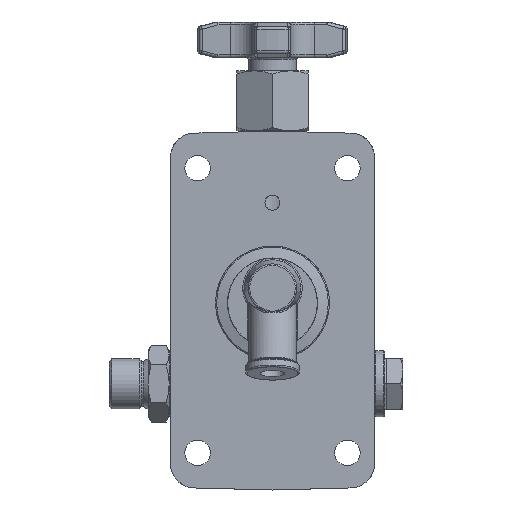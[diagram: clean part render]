
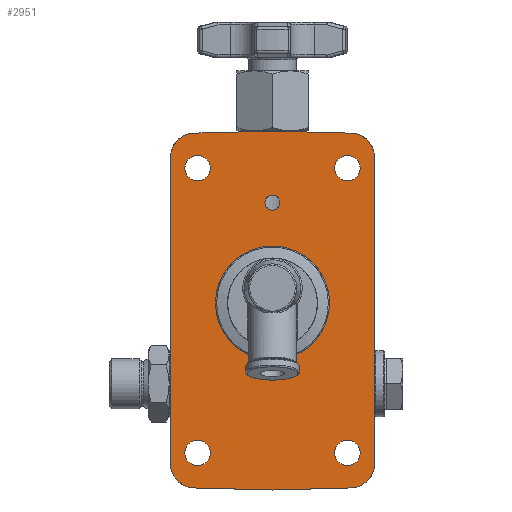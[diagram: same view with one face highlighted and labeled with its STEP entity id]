
A CAD part, front view. The second image highlights one B-rep face of the part: STEP entity #2951.
In plain terms, the highlighted planar face has unit normal (0, -1, 0).
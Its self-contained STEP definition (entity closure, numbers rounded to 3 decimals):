
#2951 = ADVANCED_FACE( 'NONE', ( #7129, #7130, #7131, #7132, #7133, #7134, #7135 ), #7136, .F. );
#7129 = FACE_OUTER_BOUND( '', #17617, .T. );
#7130 = FACE_BOUND( '', #17618, .T. );
#7131 = FACE_BOUND( '', #17619, .T. );
#7132 = FACE_BOUND( '', #17620, .T. );
#7133 = FACE_BOUND( '', #17621, .T. );
#7134 = FACE_BOUND( '', #17622, .T. );
#7135 = FACE_BOUND( '', #17623, .T. );
#7136 = PLANE( '', #17624 );
#17617 = EDGE_LOOP( '', ( #35708, #35709, #35710, #35711, #35712, #35713, #35714, #35715, #35716, #35717 ) );
#17618 = EDGE_LOOP( '', ( #35718 ) );
#17619 = EDGE_LOOP( '', ( #35719 ) );
#17620 = EDGE_LOOP( '', ( #35720 ) );
#17621 = EDGE_LOOP( '', ( #35721 ) );
#17622 = EDGE_LOOP( '', ( #35722 ) );
#17623 = EDGE_LOOP( '', ( #35723 ) );
#17624 = AXIS2_PLACEMENT_3D( '', #35724, #35725, #35726 );
#35708 = ORIENTED_EDGE( '', *, *, #46875, .T. );
#35709 = ORIENTED_EDGE( '', *, *, #45190, .T. );
#35710 = ORIENTED_EDGE( '', *, *, #46006, .T. );
#35711 = ORIENTED_EDGE( '', *, *, #46876, .T. );
#35712 = ORIENTED_EDGE( '', *, *, #46877, .T. );
#35713 = ORIENTED_EDGE( '', *, *, #46878, .T. );
#35714 = ORIENTED_EDGE( '', *, *, #46879, .T. );
#35715 = ORIENTED_EDGE( '', *, *, #46880, .T. );
#35716 = ORIENTED_EDGE( '', *, *, #44805, .T. );
#35717 = ORIENTED_EDGE( '', *, *, #46881, .T. );
#35718 = ORIENTED_EDGE( '', *, *, #46365, .F. );
#35719 = ORIENTED_EDGE( '', *, *, #46882, .F. );
#35720 = ORIENTED_EDGE( '', *, *, #46883, .F. );
#35721 = ORIENTED_EDGE( '', *, *, #46884, .F. );
#35722 = ORIENTED_EDGE( '', *, *, #45834, .T. );
#35723 = ORIENTED_EDGE( '', *, *, #46885, .F. );
#35724 = CARTESIAN_POINT( '', ( 0., 0., 0. ) );
#35725 = DIRECTION( '', ( 0., 1., 0. ) );
#35726 = DIRECTION( '', ( 1., 0., 0. ) );
#44805 = EDGE_CURVE( 'NONE', #50502, #50503, #50504, .T. );
#45190 = EDGE_CURVE( 'NONE', #51167, #51168, #51169, .T. );
#45834 = EDGE_CURVE( 'NONE', #52242, #52242, #52243, .T. );
#46006 = EDGE_CURVE( 'NONE', #51168, #52507, #52508, .T. );
#46365 = EDGE_CURVE( 'NONE', #53074, #53074, #53075, .T. );
#46875 = EDGE_CURVE( 'NONE', #53823, #51167, #53824, .T. );
#46876 = EDGE_CURVE( 'NONE', #52507, #53825, #53826, .T. );
#46877 = EDGE_CURVE( 'NONE', #53825, #53827, #53828, .T. );
#46878 = EDGE_CURVE( 'NONE', #53827, #53829, #53830, .T. );
#46879 = EDGE_CURVE( 'NONE', #53829, #53831, #53832, .T. );
#46880 = EDGE_CURVE( 'NONE', #53831, #50502, #53833, .T. );
#46881 = EDGE_CURVE( 'NONE', #50503, #53823, #53834, .T. );
#46882 = EDGE_CURVE( 'NONE', #53835, #53835, #53836, .T. );
#46883 = EDGE_CURVE( 'NONE', #53837, #53837, #53838, .T. );
#46884 = EDGE_CURVE( 'NONE', #53839, #53839, #53840, .T. );
#46885 = EDGE_CURVE( 'NONE', #53841, #53841, #53842, .T. );
#50502 = VERTEX_POINT( 'NONE', #59987 );
#50503 = VERTEX_POINT( 'NONE', #59988 );
#50504 = LINE( '', #59989, #59990 );
#51167 = VERTEX_POINT( 'NONE', #61398 );
#51168 = VERTEX_POINT( 'NONE', #61399 );
#51169 = CIRCLE( '', #61400, 8. );
#52242 = VERTEX_POINT( '', #63825 );
#52243 = CIRCLE( '', #63826, 2.5 );
#52507 = VERTEX_POINT( 'NONE', #64455 );
#52508 = LINE( '', #64456, #64457 );
#53074 = VERTEX_POINT( '', #65964 );
#53075 = CIRCLE( '', #65965, 4.25 );
#53823 = VERTEX_POINT( 'NONE', #67773 );
#53824 = LINE( '', #67774, #67775 );
#53825 = VERTEX_POINT( 'NONE', #67776 );
#53826 = LINE( '', #67777, #67778 );
#53827 = VERTEX_POINT( 'NONE', #67779 );
#53828 = CIRCLE( '', #67780, 8. );
#53829 = VERTEX_POINT( 'NONE', #67781 );
#53830 = LINE( '', #67782, #67783 );
#53831 = VERTEX_POINT( 'NONE', #67784 );
#53832 = CIRCLE( '', #67785, 8. );
#53833 = LINE( '', #67786, #67787 );
#53834 = CIRCLE( '', #67788, 8. );
#53835 = VERTEX_POINT( '', #67789 );
#53836 = CIRCLE( '', #67790, 4.25 );
#53837 = VERTEX_POINT( '', #67791 );
#53838 = CIRCLE( '', #67792, 4.25 );
#53839 = VERTEX_POINT( '', #67793 );
#53840 = CIRCLE( '', #67794, 4.25 );
#53841 = VERTEX_POINT( '', #67795 );
#53842 = CIRCLE( '', #67796, 15. );
#59987 = CARTESIAN_POINT( '', ( 0., 0., 57.39 ) );
#59988 = CARTESIAN_POINT( '', ( -26.209, 0., 56.704 ) );
#59989 = CARTESIAN_POINT( '', ( -34., 0., 56.5 ) );
#59990 = VECTOR( '', #76451, 1000. );
#61398 = CARTESIAN_POINT( '', ( -34., 0., -53.707 ) );
#61399 = CARTESIAN_POINT( '', ( -26.209, 0., -61.704 ) );
#61400 = AXIS2_PLACEMENT_3D( '', #76932, #76933, #76934 );
#63825 = CARTESIAN_POINT( '', ( 0., 0., 36. ) );
#63826 = AXIS2_PLACEMENT_3D( '', #77802, #77803, #77804 );
#64455 = CARTESIAN_POINT( '', ( 0., 0., -62.39 ) );
#64456 = CARTESIAN_POINT( '', ( 0., 0., -62.39 ) );
#64457 = VECTOR( '', #77987, 1000. );
#65964 = CARTESIAN_POINT( '', ( 25., 0., 40.75 ) );
#65965 = AXIS2_PLACEMENT_3D( '', #78351, #78352, #78353 );
#67773 = CARTESIAN_POINT( '', ( -34., 0., 48.707 ) );
#67774 = CARTESIAN_POINT( '', ( -34., 0., 56.5 ) );
#67775 = VECTOR( '', #78939, 1000. );
#67776 = CARTESIAN_POINT( '', ( 26.209, 0., -61.704 ) );
#67777 = CARTESIAN_POINT( '', ( 0., 0., -62.39 ) );
#67778 = VECTOR( '', #78940, 1000. );
#67779 = CARTESIAN_POINT( '', ( 34., 0., -53.707 ) );
#67780 = AXIS2_PLACEMENT_3D( '', #78941, #78942, #78943 );
#67781 = CARTESIAN_POINT( '', ( 34., 0., 48.707 ) );
#67782 = CARTESIAN_POINT( '', ( 34., 0., 56.5 ) );
#67783 = VECTOR( '', #78944, 1000. );
#67784 = CARTESIAN_POINT( '', ( 26.209, 0., 56.704 ) );
#67785 = AXIS2_PLACEMENT_3D( '', #78945, #78946, #78947 );
#67786 = CARTESIAN_POINT( '', ( 34., 0., 56.5 ) );
#67787 = VECTOR( '', #78948, 1000. );
#67788 = AXIS2_PLACEMENT_3D( '', #78949, #78950, #78951 );
#67789 = CARTESIAN_POINT( '', ( -25., 0., 40.75 ) );
#67790 = AXIS2_PLACEMENT_3D( '', #78952, #78953, #78954 );
#67791 = CARTESIAN_POINT( '', ( -25., 0., -54.25 ) );
#67792 = AXIS2_PLACEMENT_3D( '', #78955, #78956, #78957 );
#67793 = CARTESIAN_POINT( '', ( 25., 0., -54.25 ) );
#67794 = AXIS2_PLACEMENT_3D( '', #78958, #78959, #78960 );
#67795 = CARTESIAN_POINT( '', ( 0., 0., -15. ) );
#67796 = AXIS2_PLACEMENT_3D( '', #78961, #78962, #78963 );
#76451 = DIRECTION( '', ( -1., 0., -0.026 ) );
#76932 = CARTESIAN_POINT( '', ( -26., 0., -53.707 ) );
#76933 = DIRECTION( '', ( 0., -1., 0. ) );
#76934 = DIRECTION( '', ( 0., 0., 1. ) );
#77802 = CARTESIAN_POINT( '', ( 0., 0., 33.5 ) );
#77803 = DIRECTION( '', ( 0., 1., 0. ) );
#77804 = DIRECTION( '', ( 0., 0., 1. ) );
#77987 = DIRECTION( '', ( 1., 0., -0.026 ) );
#78351 = CARTESIAN_POINT( '', ( 25., 0., 45. ) );
#78352 = DIRECTION( '', ( 0., -1., 0. ) );
#78353 = DIRECTION( '', ( 0., 0., -1. ) );
#78939 = DIRECTION( '', ( 0., 0., -1. ) );
#78940 = DIRECTION( '', ( 1., 0., 0.026 ) );
#78941 = CARTESIAN_POINT( '', ( 26., 0., -53.707 ) );
#78942 = DIRECTION( '', ( 0., -1., 0. ) );
#78943 = DIRECTION( '', ( 0., 0., 1. ) );
#78944 = DIRECTION( '', ( 0., 0., 1. ) );
#78945 = CARTESIAN_POINT( '', ( 26., 0., 48.707 ) );
#78946 = DIRECTION( '', ( 0., -1., 0. ) );
#78947 = DIRECTION( '', ( 0., 0., 1. ) );
#78948 = DIRECTION( '', ( -1., 0., 0.026 ) );
#78949 = CARTESIAN_POINT( '', ( -26., 0., 48.707 ) );
#78950 = DIRECTION( '', ( 0., -1., 0. ) );
#78951 = DIRECTION( '', ( 0., 0., 1. ) );
#78952 = CARTESIAN_POINT( '', ( -25., 0., 45. ) );
#78953 = DIRECTION( '', ( 0., -1., 0. ) );
#78954 = DIRECTION( '', ( 0., 0., -1. ) );
#78955 = CARTESIAN_POINT( '', ( -25., 0., -50. ) );
#78956 = DIRECTION( '', ( 0., -1., 0. ) );
#78957 = DIRECTION( '', ( 0., 0., -1. ) );
#78958 = CARTESIAN_POINT( '', ( 25., 0., -50. ) );
#78959 = DIRECTION( '', ( 0., -1., 0. ) );
#78960 = DIRECTION( '', ( 0., 0., -1. ) );
#78961 = CARTESIAN_POINT( '', ( 0., 0., 0. ) );
#78962 = DIRECTION( '', ( 0., -1., 0. ) );
#78963 = DIRECTION( '', ( 0., 0., -1. ) );
